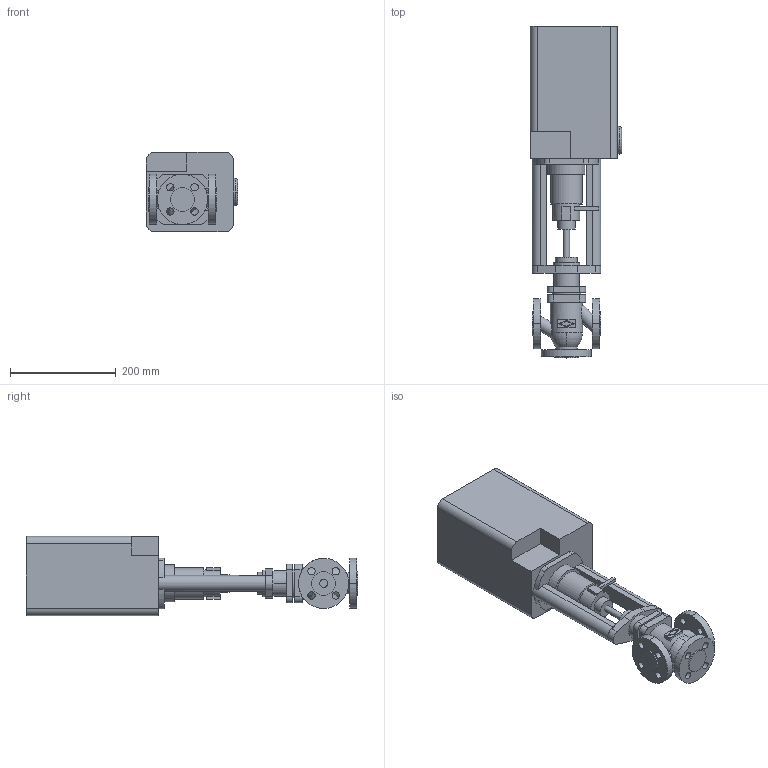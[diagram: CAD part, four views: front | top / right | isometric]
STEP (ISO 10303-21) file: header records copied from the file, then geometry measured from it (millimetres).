
FILE_DESCRIPTION(('OneSpaceDesigner STEP Export'),'2;1');
FILE_NAME('c000002384.stp','2006-09-19T11:54:35',(''),(''),'OneSpace Designer STEP processor for AP214 (Solid Model)','OneSpace Designer 13.20A 18-Aug-2005 (C) CoCreate Software GmbH','');
FILE_SCHEMA(('AUTOMOTIVE_DESIGN { 1 0 10303 214 1 1 1 1 }'));
Length unit declared in the file: millimetre
Products named in the file (2): 1; 2
Bounding box: 173 x 629 x 150 mm (x, y, z)
Volume: 7617179 mm3; surface area: 389878.2 mm2
Topology: 2 solids, 2 shells, 197 faces, 502 edges, 334 vertices
Faces by surface type: cylinder 101, plane 92, torus 4
Entity records: 5843 total; most frequent: CARTESIAN_POINT 1278, ORIENTED_EDGE 1004, DIRECTION 855, EDGE_CURVE 502, VERTEX_POINT 334, AXIS2_PLACEMENT_3D 296, VECTOR 263, LINE 263
